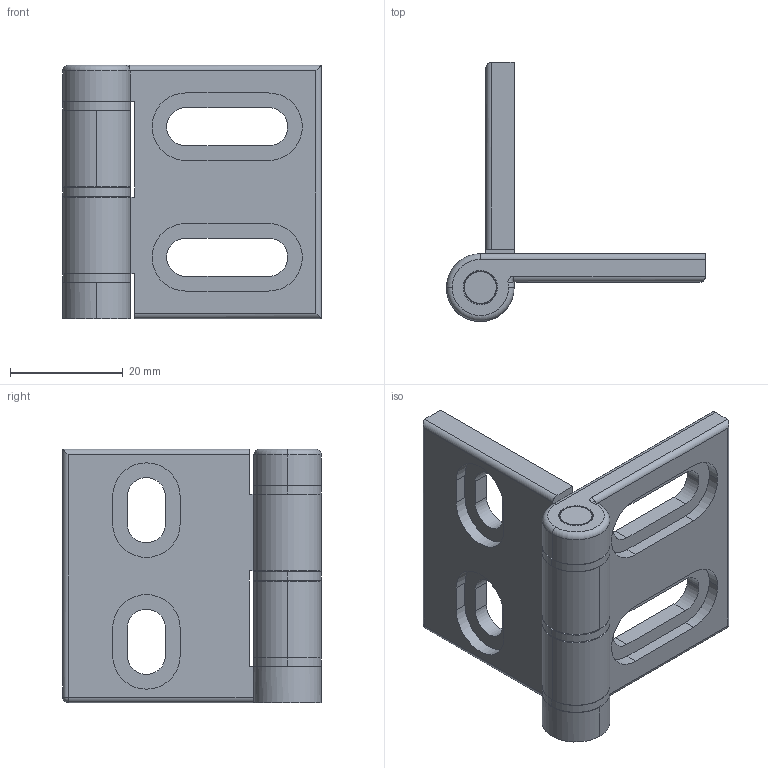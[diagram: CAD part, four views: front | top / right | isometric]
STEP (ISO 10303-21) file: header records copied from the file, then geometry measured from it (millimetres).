
FILE_DESCRIPTION (( 'STEP AP203' ), '1' );
FILE_NAME ('軞蚾.STEP', '2018-08-17T04:49:29', ( '' ), ( '' ), 'SwSTEP 2.0', 'SolidWorks 2017', '' );
FILE_SCHEMA (( 'CONFIG_CONTROL_DESIGN' ));
Length unit declared in the file: millimetre
Products named in the file (5): A01; A04; 軞蚾; A03; A02 - 
Assembly tree (6 placements, depth 2):
  軞蚾
    A02 - 
    A04
    A03  x3
    A01
Bounding box: 46 x 46 x 45 mm (x, y, z)
Volume: 14013 mm3; surface area: 13651.2 mm2
Topology: 71 solids, 71 shells, 597 faces, 1312 edges, 870 vertices
Faces by surface type: plane 374, cylinder 217, torus 5, sphere 1
Entity records: 16623 total; most frequent: DIRECTION 2889, CARTESIAN_POINT 2754, ORIENTED_EDGE 2574, EDGE_CURVE 1287, AXIS2_PLACEMENT_3D 1013, LINE 863, VECTOR 863, VERTEX_POINT 854
